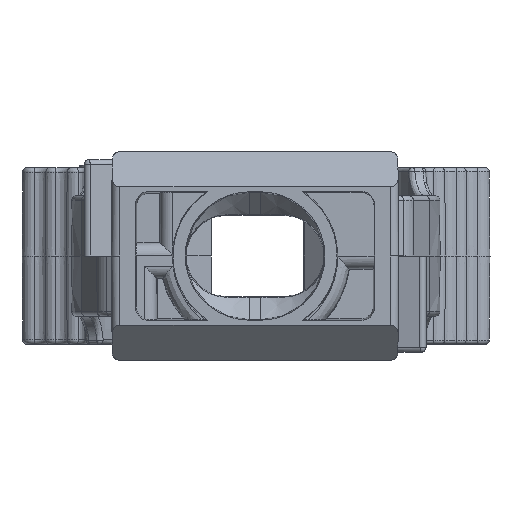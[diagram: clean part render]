
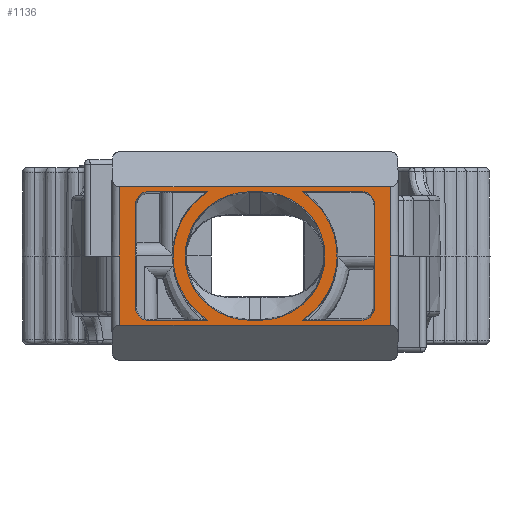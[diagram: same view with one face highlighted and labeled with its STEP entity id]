
A CAD part, front view. The second image highlights one B-rep face of the part: STEP entity #1136.
In plain terms, the highlighted planar face has unit normal (0, -1, 0).
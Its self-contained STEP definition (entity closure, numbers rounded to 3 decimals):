
#86=FACE_BOUND('',#2082,.T.);
#87=FACE_BOUND('',#2083,.T.);
#88=FACE_BOUND('',#2084,.T.);
#89=FACE_BOUND('',#2085,.T.);
#205=CIRCLE('',#7527,4.);
#421=CIRCLE('',#8066,4.);
#770=ELLIPSE('',#8077,0.8,0.8);
#774=ELLIPSE('',#8084,0.8,0.8);
#775=ELLIPSE('',#8086,0.8,0.8);
#783=ELLIPSE('',#8118,0.8,0.8);
#1136=ADVANCED_FACE('',(#86,#87,#88,#89),#1310,.F.);
#1310=PLANE('',#8119);
#2082=EDGE_LOOP('',(#4899,#4900,#4901,#4902,#4903,#4904));
#2083=EDGE_LOOP('',(#4905,#4906,#4907,#4908,#4909,#4910));
#2084=EDGE_LOOP('',(#4911,#4912,#4913,#4914,#4915,#4916));
#2085=EDGE_LOOP('',(#4917,#4918,#4919,#4920));
#2159=LINE('',#10179,#2665);
#2162=LINE('',#10190,#2668);
#2163=LINE('',#10197,#2669);
#2170=LINE('',#10220,#2676);
#2189=LINE('',#10325,#2695);
#2190=LINE('',#10327,#2696);
#2245=LINE('',#10857,#2751);
#2251=LINE('',#10888,#2757);
#2592=LINE('',#14660,#3101);
#2619=LINE('',#15224,#3128);
#2620=LINE('',#15226,#3129);
#2621=LINE('',#15241,#3130);
#2622=LINE('',#15244,#3131);
#2623=LINE('',#15245,#3132);
#2665=VECTOR('',#8195,1.);
#2668=VECTOR('',#8204,1.);
#2669=VECTOR('',#8211,1.);
#2676=VECTOR('',#8230,1.);
#2695=VECTOR('',#8261,1.);
#2696=VECTOR('',#8264,1.);
#2751=VECTOR('',#8419,1.);
#2757=VECTOR('',#8429,1.);
#3101=VECTOR('',#9812,1.);
#3128=VECTOR('',#9964,1.);
#3129=VECTOR('',#9967,1.);
#3130=VECTOR('',#9970,1.);
#3131=VECTOR('',#9973,1.);
#3132=VECTOR('',#9974,1.);
#4899=ORIENTED_EDGE('',*,*,#6076,.F.);
#4900=ORIENTED_EDGE('',*,*,#6035,.T.);
#4901=ORIENTED_EDGE('',*,*,#6038,.T.);
#4902=ORIENTED_EDGE('',*,*,#6077,.F.);
#4903=ORIENTED_EDGE('',*,*,#6030,.F.);
#4904=ORIENTED_EDGE('',*,*,#6050,.F.);
#4905=ORIENTED_EDGE('',*,*,#7113,.T.);
#4906=ORIENTED_EDGE('',*,*,#7114,.T.);
#4907=ORIENTED_EDGE('',*,*,#7115,.T.);
#4908=ORIENTED_EDGE('',*,*,#6197,.F.);
#4909=ORIENTED_EDGE('',*,*,#7064,.T.);
#4910=ORIENTED_EDGE('',*,*,#6189,.F.);
#4911=ORIENTED_EDGE('',*,*,#6075,.T.);
#4912=ORIENTED_EDGE('',*,*,#7111,.F.);
#4913=ORIENTED_EDGE('',*,*,#7059,.T.);
#4914=ORIENTED_EDGE('',*,*,#7112,.F.);
#4915=ORIENTED_EDGE('',*,*,#7065,.F.);
#4916=ORIENTED_EDGE('',*,*,#7021,.F.);
#4917=ORIENTED_EDGE('',*,*,#7038,.T.);
#4918=ORIENTED_EDGE('',*,*,#7116,.T.);
#4919=ORIENTED_EDGE('',*,*,#6168,.T.);
#4920=ORIENTED_EDGE('',*,*,#7117,.T.);
#5287=VERTEX_POINT('',#10177);
#5289=VERTEX_POINT('',#10180);
#5293=VERTEX_POINT('',#10189);
#5294=VERTEX_POINT('',#10191);
#5295=VERTEX_POINT('',#10195);
#5306=VERTEX_POINT('',#10219);
#5325=VERTEX_POINT('',#10268);
#5328=VERTEX_POINT('',#10288);
#5405=VERTEX_POINT('',#10800);
#5406=VERTEX_POINT('',#10802);
#5421=VERTEX_POINT('',#10856);
#5422=VERTEX_POINT('',#10858);
#5428=VERTEX_POINT('',#10887);
#5429=VERTEX_POINT('',#10889);
#5967=VERTEX_POINT('',#14661);
#5972=VERTEX_POINT('',#14722);
#5973=VERTEX_POINT('',#14724);
#5980=VERTEX_POINT('',#14831);
#5982=VERTEX_POINT('',#14841);
#5984=VERTEX_POINT('',#14854);
#5999=VERTEX_POINT('',#15240);
#6000=VERTEX_POINT('',#15242);
#6030=EDGE_CURVE('',#5287,#5289,#2159,.T.);
#6035=EDGE_CURVE('',#5294,#5293,#2162,.T.);
#6038=EDGE_CURVE('',#5293,#5295,#2163,.T.);
#6050=EDGE_CURVE('',#5306,#5287,#2170,.T.);
#6075=EDGE_CURVE('',#5325,#5328,#7200,.T.);
#6076=EDGE_CURVE('',#5294,#5306,#2189,.T.);
#6077=EDGE_CURVE('',#5289,#5295,#2190,.T.);
#6168=EDGE_CURVE('',#5406,#5405,#205,.T.);
#6189=EDGE_CURVE('',#5421,#5422,#2245,.T.);
#6197=EDGE_CURVE('',#5428,#5429,#2251,.T.);
#7021=EDGE_CURVE('',#5325,#5967,#2592,.T.);
#7038=EDGE_CURVE('',#5973,#5972,#421,.T.);
#7059=EDGE_CURVE('',#5980,#5982,#770,.T.);
#7064=EDGE_CURVE('',#5428,#5422,#774,.T.);
#7065=EDGE_CURVE('',#5967,#5984,#775,.T.);
#7111=EDGE_CURVE('',#5980,#5328,#2619,.T.);
#7112=EDGE_CURVE('',#5984,#5982,#2620,.T.);
#7113=EDGE_CURVE('',#5421,#5999,#7436,.T.);
#7114=EDGE_CURVE('',#5999,#6000,#2621,.T.);
#7115=EDGE_CURVE('',#6000,#5429,#783,.T.);
#7116=EDGE_CURVE('',#5972,#5406,#2622,.T.);
#7117=EDGE_CURVE('',#5405,#5973,#2623,.T.);
#7200=B_SPLINE_CURVE_WITH_KNOTS('',3,(#10289,#10290,#10291,#10292,#10293,
#10294,#10295,#10296,#10297,#10298,#10299,#10300),.UNSPECIFIED.,.F.,.F.,
(4,1,1,1,1,1,1,1,1,4),(0.,0.048,0.143,0.286,
0.429,0.571,0.714,0.857,
0.952,1.),.UNSPECIFIED.);
#7436=B_SPLINE_CURVE_WITH_KNOTS('',3,(#15228,#15229,#15230,#15231,#15232,
#15233,#15234,#15235,#15236,#15237,#15238,#15239),.UNSPECIFIED.,.F.,.F.,
(4,1,1,1,1,1,1,1,1,4),(0.,0.048,0.143,0.286,
0.429,0.571,0.714,0.857,
0.952,1.),.UNSPECIFIED.);
#7527=AXIS2_PLACEMENT_3D('',#10801,#8387,#8388);
#8066=AXIS2_PLACEMENT_3D('',#14723,#9847,#9848);
#8077=AXIS2_PLACEMENT_3D('',#14842,#9877,#9878);
#8084=AXIS2_PLACEMENT_3D('',#14851,#9892,#9893);
#8086=AXIS2_PLACEMENT_3D('',#14853,#9896,#9897);
#8118=AXIS2_PLACEMENT_3D('',#15243,#9971,#9972);
#8119=AXIS2_PLACEMENT_3D('',#15246,#9975,#9976);
#8195=DIRECTION('',(0.009,0.,-1.));
#8204=DIRECTION('',(0.009,0.,-1.));
#8211=DIRECTION('',(1.,0.,0.));
#8230=DIRECTION('',(1.,0.,0.));
#8261=DIRECTION('',(0.009,0.,1.));
#8264=DIRECTION('',(-0.009,0.,-1.));
#8387=DIRECTION('',(0.,1.,0.));
#8388=DIRECTION('',(1.,0.,0.));
#8419=DIRECTION('',(1.,0.,0.));
#8429=DIRECTION('',(0.,0.,1.));
#9812=DIRECTION('',(-1.,0.,0.));
#9847=DIRECTION('',(0.,1.,0.));
#9848=DIRECTION('',(1.,0.,0.));
#9877=DIRECTION('',(0.,1.,0.));
#9878=DIRECTION('',(0.707,0.,0.707));
#9892=DIRECTION('',(0.,1.,0.));
#9893=DIRECTION('',(-0.707,0.,0.707));
#9896=DIRECTION('',(0.,-1.,0.));
#9897=DIRECTION('',(0.707,0.,-0.707));
#9964=DIRECTION('',(1.,0.,0.));
#9967=DIRECTION('',(0.,0.,-1.));
#9970=DIRECTION('',(1.,0.,0.));
#9971=DIRECTION('',(0.,1.,0.));
#9972=DIRECTION('',(-0.707,0.,-0.707));
#9973=DIRECTION('',(1.,0.,0.));
#9974=DIRECTION('',(-1.,0.,0.));
#9975=DIRECTION('',(0.,1.,0.));
#9976=DIRECTION('',(-1.,0.,0.));
#10177=CARTESIAN_POINT('',(17.362,0.,4.3));
#10179=CARTESIAN_POINT('',(17.362,0.,4.3));
#10180=CARTESIAN_POINT('',(17.4,0.,0.));
#10189=CARTESIAN_POINT('',(0.538,0.,-4.3));
#10190=CARTESIAN_POINT('',(0.5,0.,-0.004));
#10191=CARTESIAN_POINT('',(0.5,0.,0.));
#10195=CARTESIAN_POINT('',(17.362,0.,-4.3));
#10197=CARTESIAN_POINT('',(0.538,0.,-4.3));
#10219=CARTESIAN_POINT('',(0.538,0.,4.3));
#10220=CARTESIAN_POINT('',(0.538,0.,4.3));
#10268=CARTESIAN_POINT('',(6.018,0.,4.));
#10288=CARTESIAN_POINT('',(6.018,0.,-4.));
#10289=CARTESIAN_POINT('',(6.018,0.,4.));
#10290=CARTESIAN_POINT('',(5.892,0.,3.918));
#10291=CARTESIAN_POINT('',(5.524,0.,3.655));
#10292=CARTESIAN_POINT('',(4.867,0.,3.027));
#10293=CARTESIAN_POINT('',(4.209,0.,2.001));
#10294=CARTESIAN_POINT('',(3.823,0.,0.686));
#10295=CARTESIAN_POINT('',(3.823,0.,-0.686));
#10296=CARTESIAN_POINT('',(4.209,0.,-2.001));
#10297=CARTESIAN_POINT('',(4.867,0.,-3.027));
#10298=CARTESIAN_POINT('',(5.524,0.,-3.655));
#10299=CARTESIAN_POINT('',(5.892,0.,-3.918));
#10300=CARTESIAN_POINT('',(6.018,0.,-4.));
#10325=CARTESIAN_POINT('',(0.5,0.,-0.004));
#10327=CARTESIAN_POINT('',(17.436,0.,4.163));
#10800=CARTESIAN_POINT('',(9.3,0.,-4.));
#10801=CARTESIAN_POINT('',(9.3,0.,0.));
#10802=CARTESIAN_POINT('',(9.3,0.,4.));
#10856=CARTESIAN_POINT('',(11.882,0.,-4.));
#10857=CARTESIAN_POINT('',(1.489,0.,-4.));
#10858=CARTESIAN_POINT('',(15.6,0.,-4.));
#10887=CARTESIAN_POINT('',(16.4,0.,-3.2));
#10888=CARTESIAN_POINT('',(16.4,0.,-3.2));
#10889=CARTESIAN_POINT('',(16.4,0.,3.2));
#14660=CARTESIAN_POINT('',(16.4,0.,4.));
#14661=CARTESIAN_POINT('',(2.3,0.,4.));
#14722=CARTESIAN_POINT('',(8.6,0.,4.));
#14723=CARTESIAN_POINT('',(8.6,0.,0.));
#14724=CARTESIAN_POINT('',(8.6,0.,-4.));
#14831=CARTESIAN_POINT('',(2.3,0.,-4.));
#14841=CARTESIAN_POINT('',(1.5,0.,-3.2));
#14842=CARTESIAN_POINT('',(2.3,0.,-3.2));
#14851=CARTESIAN_POINT('',(15.6,0.,-3.2));
#14853=CARTESIAN_POINT('',(2.3,0.,3.2));
#14854=CARTESIAN_POINT('',(1.5,0.,3.2));
#15224=CARTESIAN_POINT('',(2.3,0.,-4.));
#15226=CARTESIAN_POINT('',(1.5,0.,3.2));
#15228=CARTESIAN_POINT('',(11.882,0.,-4.));
#15229=CARTESIAN_POINT('',(12.008,0.,-3.918));
#15230=CARTESIAN_POINT('',(12.376,0.,-3.655));
#15231=CARTESIAN_POINT('',(13.033,0.,-3.027));
#15232=CARTESIAN_POINT('',(13.691,0.,-2.001));
#15233=CARTESIAN_POINT('',(14.077,0.,-0.686));
#15234=CARTESIAN_POINT('',(14.077,0.,0.686));
#15235=CARTESIAN_POINT('',(13.691,0.,2.001));
#15236=CARTESIAN_POINT('',(13.033,0.,3.027));
#15237=CARTESIAN_POINT('',(12.376,0.,3.655));
#15238=CARTESIAN_POINT('',(12.008,0.,3.918));
#15239=CARTESIAN_POINT('',(11.882,0.,4.));
#15240=CARTESIAN_POINT('',(11.882,0.,4.));
#15241=CARTESIAN_POINT('',(15.6,0.,4.));
#15242=CARTESIAN_POINT('',(15.6,0.,4.));
#15243=CARTESIAN_POINT('',(15.6,0.,3.2));
#15244=CARTESIAN_POINT('',(9.3,0.,4.));
#15245=CARTESIAN_POINT('',(1.489,0.,-4.));
#15246=CARTESIAN_POINT('',(0.489,0.,4.311));
